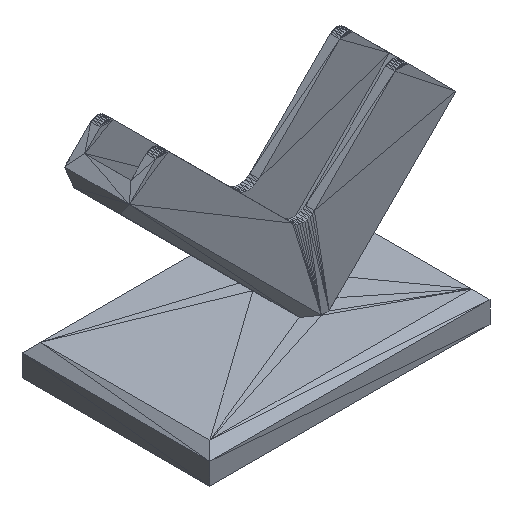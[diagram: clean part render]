
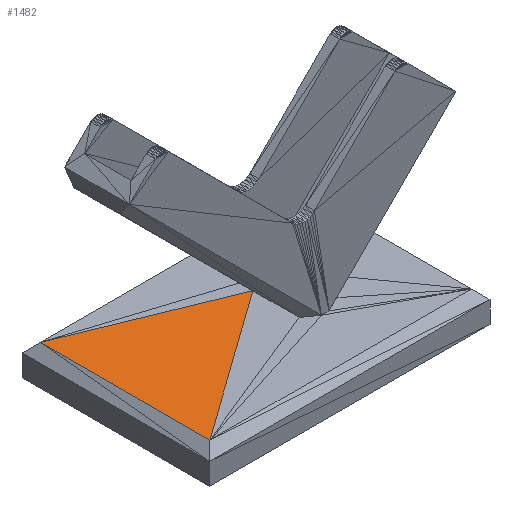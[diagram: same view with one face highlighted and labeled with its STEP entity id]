
A CAD part, isometric view. The second image highlights one B-rep face of the part: STEP entity #1482.
In plain terms, the highlighted planar face has unit normal (0, 0, 1).
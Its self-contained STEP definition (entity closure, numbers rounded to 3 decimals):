
#109 = DIRECTION ( 'NONE',  ( 1., 0., 0. ) ) ;
#263 = CARTESIAN_POINT ( 'NONE',  ( 3., 3., 10. ) ) ;
#917 = EDGE_CURVE ( 'NONE', #2830, #1720, #4000, .T. ) ;
#942 = DIRECTION ( 'NONE',  ( 0.814, 0.581, 0. ) ) ;
#1039 = VECTOR ( 'NONE', #942, 1000. ) ;
#1134 = ORIENTED_EDGE ( 'NONE', *, *, #917, .F. ) ;
#1287 = FACE_OUTER_BOUND ( 'NONE', #3528, .T. ) ;
#1454 = LINE ( 'NONE', #2195, #1039 ) ;
#1469 = ORIENTED_EDGE ( 'NONE', *, *, #2282, .T. ) ;
#1482 = ADVANCED_FACE ( 'NONE', ( #1287 ), #3670, .T. ) ;
#1667 = VECTOR ( 'NONE', #2910, 1000. ) ;
#1720 = VERTEX_POINT ( 'NONE', #2947 ) ;
#2000 = AXIS2_PLACEMENT_3D ( 'NONE', #4904, #2058, #109 ) ;
#2058 = DIRECTION ( 'NONE',  ( 0., 0., 1. ) ) ;
#2195 = CARTESIAN_POINT ( 'NONE',  ( 3., 3., 10. ) ) ;
#2235 = LINE ( 'NONE', #3029, #3270 ) ;
#2261 = CARTESIAN_POINT ( 'NONE',  ( 52., 38., 10. ) ) ;
#2282 = EDGE_CURVE ( 'NONE', #2830, #3200, #1454, .T. ) ;
#2736 = ORIENTED_EDGE ( 'NONE', *, *, #4855, .F. ) ;
#2830 = VERTEX_POINT ( 'NONE', #263 ) ;
#2910 = DIRECTION ( 'NONE',  ( 0., 1., 0. ) ) ;
#2947 = CARTESIAN_POINT ( 'NONE',  ( 3., 58., 10. ) ) ;
#3029 = CARTESIAN_POINT ( 'NONE',  ( 3., 58., 10. ) ) ;
#3200 = VERTEX_POINT ( 'NONE', #2261 ) ;
#3270 = VECTOR ( 'NONE', #4303, 1000. ) ;
#3528 = EDGE_LOOP ( 'NONE', ( #1469, #2736, #1134 ) ) ;
#3670 = PLANE ( 'NONE',  #2000 ) ;
#4000 = LINE ( 'NONE', #5233, #1667 ) ;
#4303 = DIRECTION ( 'NONE',  ( 0.926, -0.378, 0. ) ) ;
#4855 = EDGE_CURVE ( 'NONE', #1720, #3200, #2235, .T. ) ;
#4904 = CARTESIAN_POINT ( 'NONE',  ( 0., 0., 10. ) ) ;
#5233 = CARTESIAN_POINT ( 'NONE',  ( 3., 3., 10. ) ) ;
